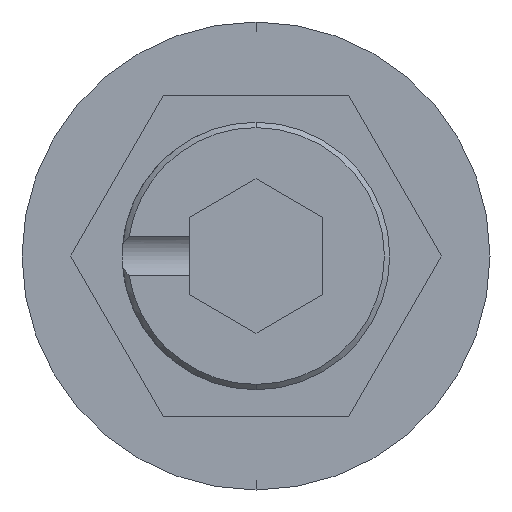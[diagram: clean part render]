
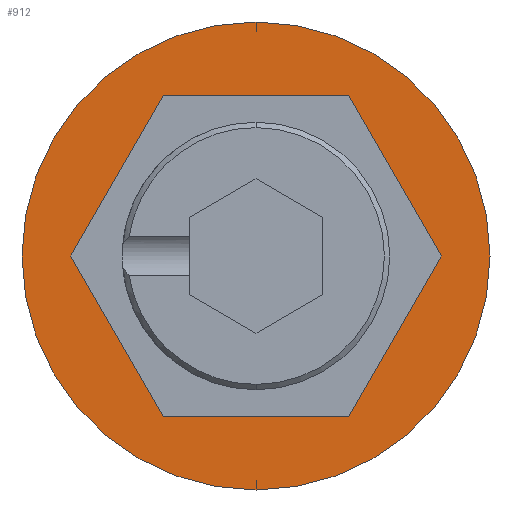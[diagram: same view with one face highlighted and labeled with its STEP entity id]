
A CAD part, front view. The second image highlights one B-rep face of the part: STEP entity #912.
In plain terms, the highlighted planar face has unit normal (0, -1, 0).
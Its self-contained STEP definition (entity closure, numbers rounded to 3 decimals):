
#13 = ORIENTED_EDGE ( 'NONE', *, *, #605, .F. ) ;
#23 = ORIENTED_EDGE ( 'NONE', *, *, #1396, .F. ) ;
#47 = CARTESIAN_POINT ( 'NONE',  ( 3.464, 0., -6. ) ) ;
#97 = EDGE_CURVE ( 'NONE', #767, #1405, #1714, .T. ) ;
#156 = ORIENTED_EDGE ( 'NONE', *, *, #97, .F. ) ;
#173 = CARTESIAN_POINT ( 'NONE',  ( -3.464, 0., 6. ) ) ;
#236 = EDGE_CURVE ( 'NONE', #245, #767, #490, .T. ) ;
#245 = VERTEX_POINT ( 'NONE', #1946 ) ;
#262 = VECTOR ( 'NONE', #2188, 1000. ) ;
#263 = ORIENTED_EDGE ( 'NONE', *, *, #834, .T. ) ;
#294 = CARTESIAN_POINT ( 'NONE',  ( 0., 0., 0. ) ) ;
#315 = DIRECTION ( 'NONE',  ( 0., 0., -1. ) ) ;
#402 = CARTESIAN_POINT ( 'NONE',  ( 3.464, 0., 6. ) ) ;
#412 = ORIENTED_EDGE ( 'NONE', *, *, #783, .T. ) ;
#445 = CARTESIAN_POINT ( 'NONE',  ( 0., 0., -8.75 ) ) ;
#470 = DIRECTION ( 'NONE',  ( 0., 0., -1. ) ) ;
#490 = LINE ( 'NONE', #47, #1332 ) ;
#513 = DIRECTION ( 'NONE',  ( -0.5, 0., -0.866 ) ) ;
#531 = AXIS2_PLACEMENT_3D ( 'NONE', #1157, #1325, #315 ) ;
#565 = EDGE_CURVE ( 'NONE', #1197, #589, #744, .T. ) ;
#589 = VERTEX_POINT ( 'NONE', #1353 ) ;
#605 = EDGE_CURVE ( 'NONE', #1018, #1197, #2148, .T. ) ;
#678 = FACE_BOUND ( 'NONE', #1398, .T. ) ;
#681 = VECTOR ( 'NONE', #1757, 1000. ) ;
#703 = LINE ( 'NONE', #1842, #262 ) ;
#731 = VERTEX_POINT ( 'NONE', #445 ) ;
#744 = LINE ( 'NONE', #1531, #2095 ) ;
#767 = VERTEX_POINT ( 'NONE', #1129 ) ;
#783 = EDGE_CURVE ( 'NONE', #731, #1369, #2122, .T. ) ;
#834 = EDGE_CURVE ( 'NONE', #1369, #731, #1496, .T. ) ;
#871 = DIRECTION ( 'NONE',  ( -0.5, 0., 0.866 ) ) ;
#912 = ADVANCED_FACE ( 'NONE', ( #678, #1971 ), #1999, .T. ) ;
#980 = CARTESIAN_POINT ( 'NONE',  ( 0., 0., 0. ) ) ;
#983 = ORIENTED_EDGE ( 'NONE', *, *, #565, .F. ) ;
#1018 = VERTEX_POINT ( 'NONE', #2196 ) ;
#1064 = DIRECTION ( 'NONE',  ( 0.5, 0., 0.866 ) ) ;
#1099 = VECTOR ( 'NONE', #513, 1000. ) ;
#1129 = CARTESIAN_POINT ( 'NONE',  ( 6.928, 0., 0. ) ) ;
#1150 = DIRECTION ( 'NONE',  ( 0., 0., -1. ) ) ;
#1157 = CARTESIAN_POINT ( 'NONE',  ( 0., 0., 0. ) ) ;
#1181 = LINE ( 'NONE', #402, #681 ) ;
#1197 = VERTEX_POINT ( 'NONE', #2088 ) ;
#1296 = CARTESIAN_POINT ( 'NONE',  ( 0., 0., 8.75 ) ) ;
#1304 = ORIENTED_EDGE ( 'NONE', *, *, #236, .F. ) ;
#1325 = DIRECTION ( 'NONE',  ( 0., -1., 0. ) ) ;
#1332 = VECTOR ( 'NONE', #1064, 1000. ) ;
#1353 = CARTESIAN_POINT ( 'NONE',  ( -3.464, 0., -6. ) ) ;
#1369 = VERTEX_POINT ( 'NONE', #1296 ) ;
#1396 = EDGE_CURVE ( 'NONE', #589, #245, #703, .T. ) ;
#1398 = EDGE_LOOP ( 'NONE', ( #23, #983, #13, #2039, #156, #1304 ) ) ;
#1405 = VERTEX_POINT ( 'NONE', #1523 ) ;
#1482 = DIRECTION ( 'NONE',  ( 0., -1., 0. ) ) ;
#1496 = CIRCLE ( 'NONE', #1607, 8.75 ) ;
#1523 = CARTESIAN_POINT ( 'NONE',  ( 3.464, 0., 6. ) ) ;
#1531 = CARTESIAN_POINT ( 'NONE',  ( -6.928, 0., 0. ) ) ;
#1607 = AXIS2_PLACEMENT_3D ( 'NONE', #980, #2159, #1150 ) ;
#1630 = EDGE_CURVE ( 'NONE', #1405, #1018, #1181, .T. ) ;
#1669 = VECTOR ( 'NONE', #871, 1000. ) ;
#1714 = LINE ( 'NONE', #1730, #1669 ) ;
#1730 = CARTESIAN_POINT ( 'NONE',  ( 6.928, 0., 0. ) ) ;
#1757 = DIRECTION ( 'NONE',  ( -1., 0., 0. ) ) ;
#1842 = CARTESIAN_POINT ( 'NONE',  ( -3.464, 0., -6. ) ) ;
#1843 = DIRECTION ( 'NONE',  ( 0.5, 0., -0.866 ) ) ;
#1895 = AXIS2_PLACEMENT_3D ( 'NONE', #294, #1482, #470 ) ;
#1946 = CARTESIAN_POINT ( 'NONE',  ( 3.464, 0., -6. ) ) ;
#1971 = FACE_OUTER_BOUND ( 'NONE', #2119, .T. ) ;
#1999 = PLANE ( 'NONE',  #531 ) ;
#2039 = ORIENTED_EDGE ( 'NONE', *, *, #1630, .F. ) ;
#2088 = CARTESIAN_POINT ( 'NONE',  ( -6.928, 0., 0. ) ) ;
#2095 = VECTOR ( 'NONE', #1843, 1000. ) ;
#2119 = EDGE_LOOP ( 'NONE', ( #412, #263 ) ) ;
#2122 = CIRCLE ( 'NONE', #1895, 8.75 ) ;
#2148 = LINE ( 'NONE', #173, #1099 ) ;
#2159 = DIRECTION ( 'NONE',  ( 0., -1., 0. ) ) ;
#2188 = DIRECTION ( 'NONE',  ( 1., 0., 0. ) ) ;
#2196 = CARTESIAN_POINT ( 'NONE',  ( -3.464, 0., 6. ) ) ;
